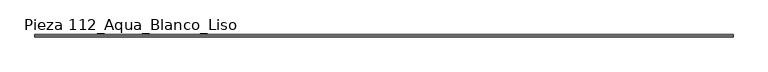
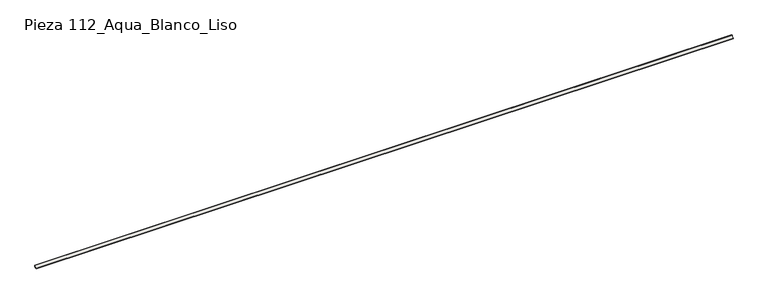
"""IFC4 building model written with IfcOpenShell, lengths in millimetres: slab geometry, ROSA GRES_112 : Pieza 112_Aqua_Blanco_Liso."""

from ifc_helpers import new_model, si_unit, point, frame, frame_2d, origin, place, context, project, spatial, polyline, circle_curve, trimmed, segment, composite_curve, outline, extrude, source, transform, mapped, element, save


def pieza_112_aqua_blanco_liso_e35a3452(model_context):
    return source(origin(), model_context, "Body", "SweptSolid", [
        extrude(outline(composite_curve([segment(polyline([(9.9734114, 8.7114978), (1.2619137, 0.0), (-30.0265886, 0.0), (-30.0265886, 9.9734114)]), True, "CONTINUOUS"), segment(trimmed(circle_curve(frame_2d((-30.0221432, 39.9955547)), 30.0221435), [point((-30.0265886, 9.9734114))], [point((0.0, 40.0))], True, "CARTESIAN"), True, "CONTINUOUS"), segment(polyline([(0.0, 40.0), (9.9734114, 40.0), (9.9734114, 8.7114978)]), True, "CONTINUOUS")], self_intersect=False)), frame((0.0, 0.0, 0.0), z_axis=(1.0, 0.0, 0.0), x_axis=(0.0, 1.0, 0.0)), (0.0, 0.0, 1.0), 11495.0),
    ])


if __name__ == "__main__":
    model = new_model("IFC4")
    model_context = context("Model", 3, world=origin())
    ifc_project = project(units=[si_unit("LENGTHUNIT", "METRE", prefix="MILLI")], contexts=[model_context])
    site = spatial("IfcSite", under=ifc_project)
    building = spatial("IfcBuilding", under=site)
    placement = place(None, origin())
    pieza_112_aqua_blanco_liso_shape = pieza_112_aqua_blanco_liso_e35a3452(model_context)
    element("IfcSlab", 1, ObjectType="ROSA GRES_112 : Pieza 112_Aqua_Blanco_Liso", at=placement, inside=building, context=model_context, shape_type="MappedRepresentation", body=[
        mapped(pieza_112_aqua_blanco_liso_shape, transform((0.0, 0.0, 0.0), x_axis=(1.0, 0.0, 0.0), y_axis=(0.0, 1.0, 0.0), z_axis=(0.0, 0.0, 1.0))),
    ])
    save(model, "model.ifc")
